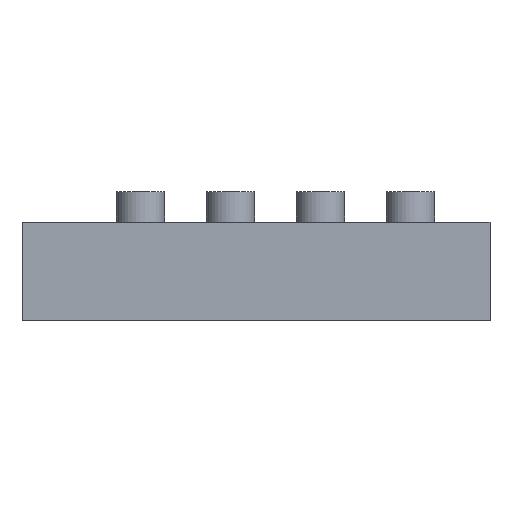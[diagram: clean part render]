
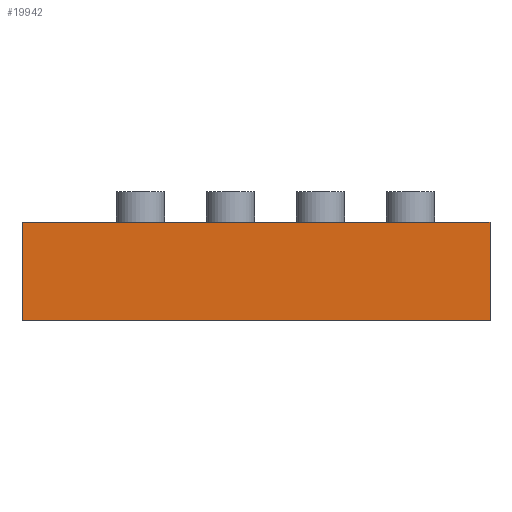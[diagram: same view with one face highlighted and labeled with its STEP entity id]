
A CAD part, front view. The second image highlights one B-rep face of the part: STEP entity #19942.
In plain terms, the highlighted planar face has unit normal (0, -1, 0).
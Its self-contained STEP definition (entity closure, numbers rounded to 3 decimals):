
#17360=CARTESIAN_POINT('',(1.77,-4.32,0.0));
#17361=VERTEX_POINT('',#17360);
#17368=CARTESIAN_POINT('',(-2.09,-4.32,0.0));
#17369=VERTEX_POINT('',#17368);
#17370=CARTESIAN_POINT('',(-2.09,-4.32,0.0));
#17371=DIRECTION('',(1.0,0.0,0.0));
#17372=VECTOR('',#17371,3.86);
#17373=LINE('',#17370,#17372);
#17374=EDGE_CURVE('',#17369,#17361,#17373,.T.);
#19895=CARTESIAN_POINT('',(1.77,-4.32,0.81));
#19896=VERTEX_POINT('',#19895);
#19903=CARTESIAN_POINT('',(1.77,-4.32,0.0));
#19904=DIRECTION('',(0.0,0.0,1.0));
#19905=VECTOR('',#19904,0.81);
#19906=LINE('',#19903,#19905);
#19907=EDGE_CURVE('',#17361,#19896,#19906,.T.);
#19919=CARTESIAN_POINT('',(1.77,-4.32,0.0));
#19920=DIRECTION('',(0.0,-1.0,0.0));
#19921=DIRECTION('',(0.0,0.0,-1.0));
#19922=AXIS2_PLACEMENT_3D('',#19919,#19920,#19921);
#19923=PLANE('',#19922);
#19924=CARTESIAN_POINT('',(-2.09,-4.32,0.81));
#19925=VERTEX_POINT('',#19924);
#19926=CARTESIAN_POINT('',(1.77,-4.32,0.81));
#19927=DIRECTION('',(-1.0,0.0,0.0));
#19928=VECTOR('',#19927,3.86);
#19929=LINE('',#19926,#19928);
#19930=EDGE_CURVE('',#19896,#19925,#19929,.T.);
#19931=ORIENTED_EDGE('',*,*,#19930,.T.);
#19932=CARTESIAN_POINT('',(-2.09,-4.32,0.0));
#19933=DIRECTION('',(0.0,0.0,1.0));
#19934=VECTOR('',#19933,0.81);
#19935=LINE('',#19932,#19934);
#19936=EDGE_CURVE('',#17369,#19925,#19935,.T.);
#19937=ORIENTED_EDGE('',*,*,#19936,.F.);
#19938=ORIENTED_EDGE('',*,*,#17374,.T.);
#19939=ORIENTED_EDGE('',*,*,#19907,.T.);
#19940=EDGE_LOOP('',(#19931,#19937,#19938,#19939));
#19941=FACE_OUTER_BOUND('',#19940,.T.);
#19942=ADVANCED_FACE('',(#19941),#19923,.T.);
